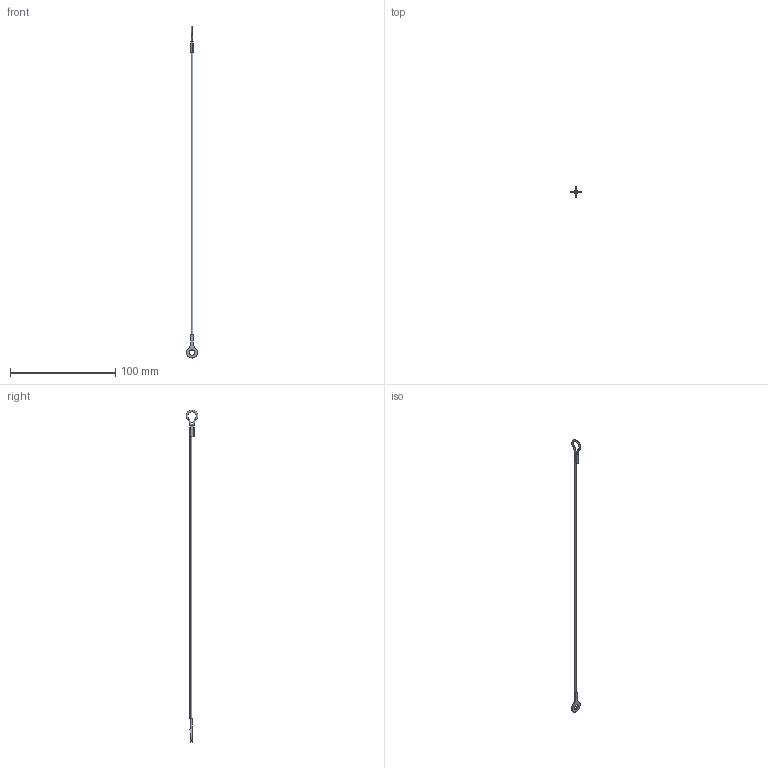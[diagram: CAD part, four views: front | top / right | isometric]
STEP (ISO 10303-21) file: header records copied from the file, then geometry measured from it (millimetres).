
FILE_DESCRIPTION (( 'STEP AP203' ), '1' );
FILE_NAME ('LA1075.I06-304N1.step', '2026-03-23T16:46:15', ( '' ), ( '' ), 'SwSTEP 2.0', 'SolidWorks 2019', '' );
FILE_SCHEMA (( 'CONFIG_CONTROL_DESIGN' ));
Length unit declared in the file: millimetre
Products named in the file (1): LA1075.I06-304N1
Bounding box: 10.41 x 11.16 x 315.6 mm (x, y, z)
Volume: 865.9 mm3; surface area: 1965.3 mm2
Topology: 1 solids, 1 shells, 32 faces, 74 edges, 46 vertices
Faces by surface type: plane 14, cylinder 10, torus 8
Entity records: 1003 total; most frequent: DIRECTION 180, CARTESIAN_POINT 153, ORIENTED_EDGE 148, EDGE_CURVE 74, AXIS2_PLACEMENT_3D 73, VERTEX_POINT 46, CIRCLE 40, EDGE_LOOP 38
